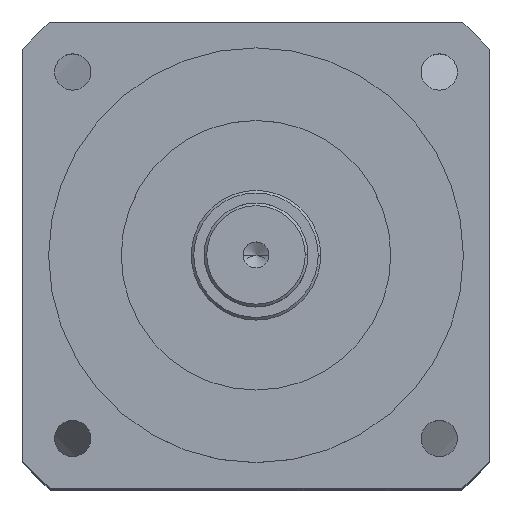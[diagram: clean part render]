
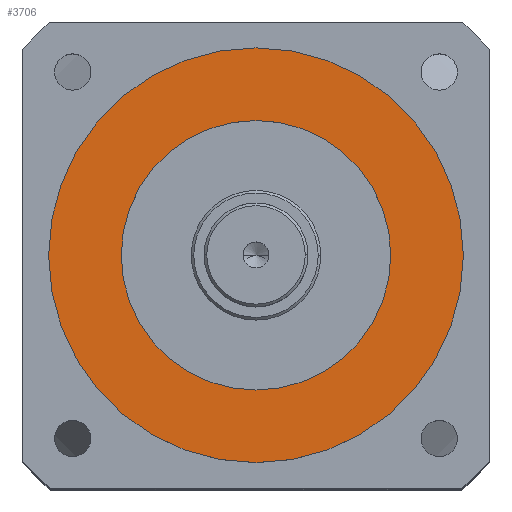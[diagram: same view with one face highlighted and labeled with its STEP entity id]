
A CAD part, top view. The second image highlights one B-rep face of the part: STEP entity #3706.
In plain terms, the highlighted planar face has unit normal (0, 0, 1).
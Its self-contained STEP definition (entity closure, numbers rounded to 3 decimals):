
#1615 = VERTEX_POINT('',#1616);
#1616 = CARTESIAN_POINT('',(26.,0.,70.75));
#1623 = CYLINDRICAL_SURFACE('',#1624,26.);
#1624 = AXIS2_PLACEMENT_3D('',#1625,#1626,#1627);
#1625 = CARTESIAN_POINT('',(0.,0.,68.55));
#1626 = DIRECTION('',(0.,0.,1.));
#1627 = DIRECTION('',(1.,0.,0.));
#1635 = CYLINDRICAL_SURFACE('',#1636,26.);
#1636 = AXIS2_PLACEMENT_3D('',#1637,#1638,#1639);
#1637 = CARTESIAN_POINT('',(0.,0.,68.55));
#1638 = DIRECTION('',(0.,0.,1.));
#1639 = DIRECTION('',(1.,0.,0.));
#1647 = EDGE_CURVE('',#1648,#1615,#1650,.T.);
#1648 = VERTEX_POINT('',#1649);
#1649 = CARTESIAN_POINT('',(-26.,0.,70.75));
#1650 = SURFACE_CURVE('',#1651,(#1656,#1663),.PCURVE_S1.);
#1651 = CIRCLE('',#1652,26.);
#1652 = AXIS2_PLACEMENT_3D('',#1653,#1654,#1655);
#1653 = CARTESIAN_POINT('',(0.,0.,70.75));
#1654 = DIRECTION('',(0.,0.,1.));
#1655 = DIRECTION('',(1.,0.,0.));
#1656 = PCURVE('',#1623,#1657);
#1657 = DEFINITIONAL_REPRESENTATION('',(#1658),#1662);
#1658 = LINE('',#1659,#1660);
#1659 = CARTESIAN_POINT('',(0.,2.2));
#1660 = VECTOR('',#1661,1.);
#1661 = DIRECTION('',(1.,0.));
#1662 = ( GEOMETRIC_REPRESENTATION_CONTEXT(2) 
PARAMETRIC_REPRESENTATION_CONTEXT() REPRESENTATION_CONTEXT('2D SPACE',''
  ) );
#1663 = PCURVE('',#1664,#1669);
#1664 = PLANE('',#1665);
#1665 = AXIS2_PLACEMENT_3D('',#1666,#1667,#1668);
#1666 = CARTESIAN_POINT('',(0.,0.,70.75));
#1667 = DIRECTION('',(0.,0.,1.));
#1668 = DIRECTION('',(1.,0.,0.));
#1669 = DEFINITIONAL_REPRESENTATION('',(#1670),#1674);
#1670 = CIRCLE('',#1671,26.);
#1671 = AXIS2_PLACEMENT_2D('',#1672,#1673);
#1672 = CARTESIAN_POINT('',(0.,0.));
#1673 = DIRECTION('',(1.,0.));
#1674 = ( GEOMETRIC_REPRESENTATION_CONTEXT(2) 
PARAMETRIC_REPRESENTATION_CONTEXT() REPRESENTATION_CONTEXT('2D SPACE',''
  ) );
#1724 = EDGE_CURVE('',#1725,#1727,#1729,.T.);
#1725 = VERTEX_POINT('',#1726);
#1726 = CARTESIAN_POINT('',(40.,0.,70.75));
#1727 = VERTEX_POINT('',#1728);
#1728 = CARTESIAN_POINT('',(-40.,0.,70.75));
#1729 = SURFACE_CURVE('',#1730,(#1735,#1747),.PCURVE_S1.);
#1730 = CIRCLE('',#1731,40.);
#1731 = AXIS2_PLACEMENT_3D('',#1732,#1733,#1734);
#1732 = CARTESIAN_POINT('',(0.,0.,70.75));
#1733 = DIRECTION('',(0.,0.,1.));
#1734 = DIRECTION('',(1.,0.,0.));
#1735 = PCURVE('',#1736,#1741);
#1736 = CYLINDRICAL_SURFACE('',#1737,40.);
#1737 = AXIS2_PLACEMENT_3D('',#1738,#1739,#1740);
#1738 = CARTESIAN_POINT('',(0.,0.,70.75));
#1739 = DIRECTION('',(-0.,-0.,-1.));
#1740 = DIRECTION('',(-1.,0.,0.));
#1741 = DEFINITIONAL_REPRESENTATION('',(#1742),#1746);
#1742 = LINE('',#1743,#1744);
#1743 = CARTESIAN_POINT('',(3.142,0.));
#1744 = VECTOR('',#1745,1.);
#1745 = DIRECTION('',(-1.,0.));
#1746 = ( GEOMETRIC_REPRESENTATION_CONTEXT(2) 
PARAMETRIC_REPRESENTATION_CONTEXT() REPRESENTATION_CONTEXT('2D SPACE',''
  ) );
#1747 = PCURVE('',#1664,#1748);
#1748 = DEFINITIONAL_REPRESENTATION('',(#1749),#1753);
#1749 = CIRCLE('',#1750,40.);
#1750 = AXIS2_PLACEMENT_2D('',#1751,#1752);
#1751 = CARTESIAN_POINT('',(0.,0.));
#1752 = DIRECTION('',(1.,0.));
#1753 = ( GEOMETRIC_REPRESENTATION_CONTEXT(2) 
PARAMETRIC_REPRESENTATION_CONTEXT() REPRESENTATION_CONTEXT('2D SPACE',''
  ) );
#1771 = CYLINDRICAL_SURFACE('',#1772,40.);
#1772 = AXIS2_PLACEMENT_3D('',#1773,#1774,#1775);
#1773 = CARTESIAN_POINT('',(0.,0.,70.75));
#1774 = DIRECTION('',(-0.,-0.,-1.));
#1775 = DIRECTION('',(-1.,0.,0.));
#3683 = EDGE_CURVE('',#1727,#1725,#3684,.T.);
#3684 = SURFACE_CURVE('',#3685,(#3690,#3697),.PCURVE_S1.);
#3685 = CIRCLE('',#3686,40.);
#3686 = AXIS2_PLACEMENT_3D('',#3687,#3688,#3689);
#3687 = CARTESIAN_POINT('',(0.,0.,70.75));
#3688 = DIRECTION('',(0.,0.,1.));
#3689 = DIRECTION('',(1.,0.,0.));
#3690 = PCURVE('',#1771,#3691);
#3691 = DEFINITIONAL_REPRESENTATION('',(#3692),#3696);
#3692 = LINE('',#3693,#3694);
#3693 = CARTESIAN_POINT('',(9.425,0.));
#3694 = VECTOR('',#3695,1.);
#3695 = DIRECTION('',(-1.,0.));
#3696 = ( GEOMETRIC_REPRESENTATION_CONTEXT(2) 
PARAMETRIC_REPRESENTATION_CONTEXT() REPRESENTATION_CONTEXT('2D SPACE',''
  ) );
#3697 = PCURVE('',#1664,#3698);
#3698 = DEFINITIONAL_REPRESENTATION('',(#3699),#3703);
#3699 = CIRCLE('',#3700,40.);
#3700 = AXIS2_PLACEMENT_2D('',#3701,#3702);
#3701 = CARTESIAN_POINT('',(0.,0.));
#3702 = DIRECTION('',(1.,0.));
#3703 = ( GEOMETRIC_REPRESENTATION_CONTEXT(2) 
PARAMETRIC_REPRESENTATION_CONTEXT() REPRESENTATION_CONTEXT('2D SPACE',''
  ) );
#3706 = ADVANCED_FACE('',(#3707,#3732),#1664,.T.);
#3707 = FACE_BOUND('',#3708,.T.);
#3708 = EDGE_LOOP('',(#3709,#3731));
#3709 = ORIENTED_EDGE('',*,*,#3710,.F.);
#3710 = EDGE_CURVE('',#1615,#1648,#3711,.T.);
#3711 = SURFACE_CURVE('',#3712,(#3717,#3724),.PCURVE_S1.);
#3712 = CIRCLE('',#3713,26.);
#3713 = AXIS2_PLACEMENT_3D('',#3714,#3715,#3716);
#3714 = CARTESIAN_POINT('',(0.,0.,70.75));
#3715 = DIRECTION('',(0.,0.,1.));
#3716 = DIRECTION('',(1.,0.,0.));
#3717 = PCURVE('',#1664,#3718);
#3718 = DEFINITIONAL_REPRESENTATION('',(#3719),#3723);
#3719 = CIRCLE('',#3720,26.);
#3720 = AXIS2_PLACEMENT_2D('',#3721,#3722);
#3721 = CARTESIAN_POINT('',(0.,0.));
#3722 = DIRECTION('',(1.,0.));
#3723 = ( GEOMETRIC_REPRESENTATION_CONTEXT(2) 
PARAMETRIC_REPRESENTATION_CONTEXT() REPRESENTATION_CONTEXT('2D SPACE',''
  ) );
#3724 = PCURVE('',#1635,#3725);
#3725 = DEFINITIONAL_REPRESENTATION('',(#3726),#3730);
#3726 = LINE('',#3727,#3728);
#3727 = CARTESIAN_POINT('',(0.,2.2));
#3728 = VECTOR('',#3729,1.);
#3729 = DIRECTION('',(1.,0.));
#3730 = ( GEOMETRIC_REPRESENTATION_CONTEXT(2) 
PARAMETRIC_REPRESENTATION_CONTEXT() REPRESENTATION_CONTEXT('2D SPACE',''
  ) );
#3731 = ORIENTED_EDGE('',*,*,#1647,.F.);
#3732 = FACE_BOUND('',#3733,.T.);
#3733 = EDGE_LOOP('',(#3734,#3735));
#3734 = ORIENTED_EDGE('',*,*,#3683,.T.);
#3735 = ORIENTED_EDGE('',*,*,#1724,.T.);
